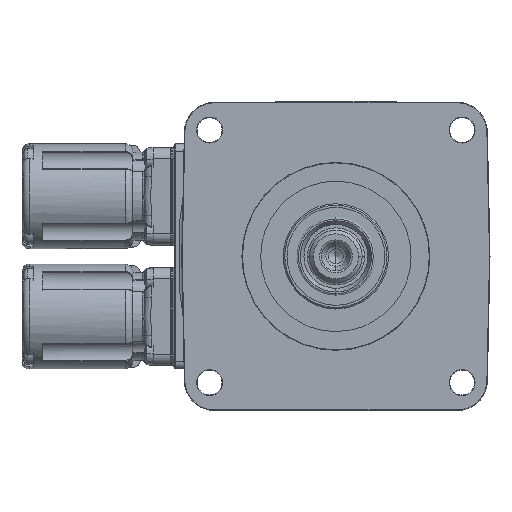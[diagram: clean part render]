
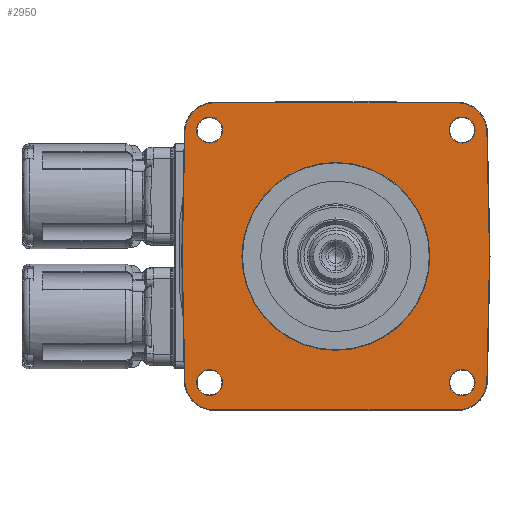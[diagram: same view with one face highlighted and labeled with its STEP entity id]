
A CAD part, left-side view. The second image highlights one B-rep face of the part: STEP entity #2950.
In plain terms, the highlighted planar face has unit normal (-1, 0, 0) as drawn and (0, 0, 1) by its records, which use the part's own axes.
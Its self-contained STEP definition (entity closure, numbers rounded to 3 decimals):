
#282=CARTESIAN_POINT('',(0.,0.,8.));
#283=DIRECTION('',(0.,0.,-1.));
#284=DIRECTION('',(0.,1.,0.));
#285=AXIS2_PLACEMENT_3D('',#282,#283,#284);
#287=CARTESIAN_POINT('',(0.,0.,8.));
#288=DIRECTION('',(0.,0.,1.));
#289=DIRECTION('',(0.,1.,0.));
#290=AXIS2_PLACEMENT_3D('',#287,#288,#289);
#292=DIRECTION('',(1.,0.021,0.));
#293=VECTOR('',#292,33.172);
#294=CARTESIAN_POINT('',(0.,-40.866,8.));
#295=LINE('',#294,#293);
#296=DIRECTION('',(1.,-0.021,0.));
#297=VECTOR('',#296,33.172);
#298=CARTESIAN_POINT('',(-33.165,-40.171,8.));
#299=LINE('',#298,#297);
#300=CARTESIAN_POINT('',(-33.,-32.307,8.));
#301=DIRECTION('',(0.,0.,-1.));
#302=DIRECTION('',(-0.021,-1.,0.));
#303=AXIS2_PLACEMENT_3D('',#300,#301,#302);
#305=DIRECTION('',(0.,-1.,0.));
#306=VECTOR('',#305,64.614);
#307=CARTESIAN_POINT('',(-40.866,32.307,8.));
#308=LINE('',#307,#306);
#309=CARTESIAN_POINT('',(-33.,32.307,8.));
#310=DIRECTION('',(0.,0.,-1.));
#311=DIRECTION('',(-1.,0.,0.));
#312=AXIS2_PLACEMENT_3D('',#309,#310,#311);
#314=DIRECTION('',(-1.,-0.021,0.));
#315=VECTOR('',#314,33.172);
#316=CARTESIAN_POINT('',(0.,40.866,8.));
#317=LINE('',#316,#315);
#318=DIRECTION('',(-1.,0.021,0.));
#319=VECTOR('',#318,33.172);
#320=CARTESIAN_POINT('',(33.165,40.171,8.));
#321=LINE('',#320,#319);
#322=CARTESIAN_POINT('',(33.,32.307,8.));
#323=DIRECTION('',(0.,0.,-1.));
#324=DIRECTION('',(0.021,1.,0.));
#325=AXIS2_PLACEMENT_3D('',#322,#323,#324);
#327=DIRECTION('',(0.,1.,0.));
#328=VECTOR('',#327,64.614);
#329=CARTESIAN_POINT('',(40.866,-32.307,8.));
#330=LINE('',#329,#328);
#331=CARTESIAN_POINT('',(33.,-32.307,8.));
#332=DIRECTION('',(0.,0.,-1.));
#333=DIRECTION('',(1.,0.,0.));
#334=AXIS2_PLACEMENT_3D('',#331,#332,#333);
#336=CARTESIAN_POINT('',(33.588,33.588,8.));
#337=DIRECTION('',(0.,0.,-1.));
#338=DIRECTION('',(1.,0.,0.));
#339=AXIS2_PLACEMENT_3D('',#336,#337,#338);
#341=CARTESIAN_POINT('',(33.588,33.588,8.));
#342=DIRECTION('',(0.,0.,-1.));
#343=DIRECTION('',(-1.,0.,0.));
#344=AXIS2_PLACEMENT_3D('',#341,#342,#343);
#346=CARTESIAN_POINT('',(-33.588,33.588,8.));
#347=DIRECTION('',(0.,0.,-1.));
#348=DIRECTION('',(1.,0.,0.));
#349=AXIS2_PLACEMENT_3D('',#346,#347,#348);
#351=CARTESIAN_POINT('',(-33.588,33.588,8.));
#352=DIRECTION('',(0.,0.,-1.));
#353=DIRECTION('',(-1.,0.,0.));
#354=AXIS2_PLACEMENT_3D('',#351,#352,#353);
#356=CARTESIAN_POINT('',(-33.588,-33.588,8.));
#357=DIRECTION('',(0.,0.,-1.));
#358=DIRECTION('',(1.,0.,0.));
#359=AXIS2_PLACEMENT_3D('',#356,#357,#358);
#361=CARTESIAN_POINT('',(-33.588,-33.588,8.));
#362=DIRECTION('',(0.,0.,-1.));
#363=DIRECTION('',(-1.,0.,0.));
#364=AXIS2_PLACEMENT_3D('',#361,#362,#363);
#366=CARTESIAN_POINT('',(33.588,-33.588,8.));
#367=DIRECTION('',(0.,0.,-1.));
#368=DIRECTION('',(1.,0.,0.));
#369=AXIS2_PLACEMENT_3D('',#366,#367,#368);
#371=CARTESIAN_POINT('',(33.588,-33.588,8.));
#372=DIRECTION('',(0.,0.,-1.));
#373=DIRECTION('',(-1.,0.,0.));
#374=AXIS2_PLACEMENT_3D('',#371,#372,#373);
#2300=CARTESIAN_POINT('',(0.,25.,8.));
#2301=CARTESIAN_POINT('',(0.,-25.,8.));
#2302=VERTEX_POINT('',#2300);
#2303=VERTEX_POINT('',#2301);
#2376=CARTESIAN_POINT('',(0.,-40.866,8.));
#2377=CARTESIAN_POINT('',(33.165,-40.171,8.));
#2378=VERTEX_POINT('',#2376);
#2379=VERTEX_POINT('',#2377);
#2380=CARTESIAN_POINT('',(40.866,-32.307,8.));
#2381=VERTEX_POINT('',#2380);
#2382=CARTESIAN_POINT('',(40.866,32.307,8.));
#2383=VERTEX_POINT('',#2382);
#2384=CARTESIAN_POINT('',(33.165,40.171,8.));
#2385=VERTEX_POINT('',#2384);
#2386=CARTESIAN_POINT('',(0.,40.866,8.));
#2387=VERTEX_POINT('',#2386);
#2388=CARTESIAN_POINT('',(-33.165,40.171,8.));
#2389=VERTEX_POINT('',#2388);
#2390=CARTESIAN_POINT('',(-40.866,32.307,8.));
#2391=VERTEX_POINT('',#2390);
#2392=CARTESIAN_POINT('',(-40.866,-32.307,8.));
#2393=VERTEX_POINT('',#2392);
#2394=CARTESIAN_POINT('',(-33.165,-40.171,8.));
#2395=VERTEX_POINT('',#2394);
#2396=CARTESIAN_POINT('',(37.022,33.588,8.));
#2397=CARTESIAN_POINT('',(30.154,33.588,8.));
#2398=VERTEX_POINT('',#2396);
#2399=VERTEX_POINT('',#2397);
#2400=CARTESIAN_POINT('',(-30.154,33.588,8.));
#2401=CARTESIAN_POINT('',(-37.022,33.588,8.));
#2402=VERTEX_POINT('',#2400);
#2403=VERTEX_POINT('',#2401);
#2404=CARTESIAN_POINT('',(-30.154,-33.588,8.));
#2405=CARTESIAN_POINT('',(-37.022,-33.588,8.));
#2406=VERTEX_POINT('',#2404);
#2407=VERTEX_POINT('',#2405);
#2408=CARTESIAN_POINT('',(37.022,-33.588,8.));
#2409=CARTESIAN_POINT('',(30.154,-33.588,8.));
#2410=VERTEX_POINT('',#2408);
#2411=VERTEX_POINT('',#2409);
#2894=CARTESIAN_POINT('',(0.,0.,8.));
#2895=DIRECTION('',(0.,0.,1.));
#2896=DIRECTION('',(0.,1.,0.));
#2897=AXIS2_PLACEMENT_3D('',#2894,#2895,#2896);
#2898=PLANE('',#2897);
#2900=ORIENTED_EDGE('',*,*,#2899,.F.);
#2902=ORIENTED_EDGE('',*,*,#2901,.F.);
#2904=ORIENTED_EDGE('',*,*,#2903,.T.);
#2906=ORIENTED_EDGE('',*,*,#2905,.F.);
#2907=ORIENTED_EDGE('',*,*,#2884,.T.);
#2909=ORIENTED_EDGE('',*,*,#2908,.F.);
#2911=ORIENTED_EDGE('',*,*,#2910,.F.);
#2913=ORIENTED_EDGE('',*,*,#2912,.T.);
#2915=ORIENTED_EDGE('',*,*,#2914,.F.);
#2917=ORIENTED_EDGE('',*,*,#2916,.T.);
#2918=EDGE_LOOP('',(#2900,#2902,#2904,#2906,#2907,#2909,#2911,#2913,#2915,
#2917));
#2919=FACE_OUTER_BOUND('',#2918,.F.);
#2921=ORIENTED_EDGE('',*,*,#2920,.F.);
#2923=ORIENTED_EDGE('',*,*,#2922,.T.);
#2924=EDGE_LOOP('',(#2921,#2923));
#2925=FACE_BOUND('',#2924,.F.);
#2927=ORIENTED_EDGE('',*,*,#2926,.F.);
#2929=ORIENTED_EDGE('',*,*,#2928,.F.);
#2930=EDGE_LOOP('',(#2927,#2929));
#2931=FACE_BOUND('',#2930,.F.);
#2933=ORIENTED_EDGE('',*,*,#2932,.F.);
#2935=ORIENTED_EDGE('',*,*,#2934,.F.);
#2936=EDGE_LOOP('',(#2933,#2935));
#2937=FACE_BOUND('',#2936,.F.);
#2939=ORIENTED_EDGE('',*,*,#2938,.F.);
#2941=ORIENTED_EDGE('',*,*,#2940,.F.);
#2942=EDGE_LOOP('',(#2939,#2941));
#2943=FACE_BOUND('',#2942,.F.);
#2945=ORIENTED_EDGE('',*,*,#2944,.F.);
#2947=ORIENTED_EDGE('',*,*,#2946,.F.);
#2948=EDGE_LOOP('',(#2945,#2947));
#2949=FACE_BOUND('',#2948,.F.);
#2950=ADVANCED_FACE('',(#2919,#2925,#2931,#2937,#2943,#2949),#2898,.T.);
#286=CIRCLE('',#285,25.);
#291=CIRCLE('',#290,25.);
#304=CIRCLE('',#303,7.866);
#313=CIRCLE('',#312,7.866);
#326=CIRCLE('',#325,7.866);
#335=CIRCLE('',#334,7.866);
#340=CIRCLE('',#339,3.434);
#345=CIRCLE('',#344,3.434);
#350=CIRCLE('',#349,3.434);
#355=CIRCLE('',#354,3.434);
#360=CIRCLE('',#359,3.434);
#365=CIRCLE('',#364,3.434);
#370=CIRCLE('',#369,3.434);
#375=CIRCLE('',#374,3.434);
#2884=EDGE_CURVE('',#2391,#2389,#313,.T.);
#2899=EDGE_CURVE('',#2378,#2379,#295,.T.);
#2901=EDGE_CURVE('',#2395,#2378,#299,.T.);
#2903=EDGE_CURVE('',#2395,#2393,#304,.T.);
#2905=EDGE_CURVE('',#2391,#2393,#308,.T.);
#2908=EDGE_CURVE('',#2387,#2389,#317,.T.);
#2910=EDGE_CURVE('',#2385,#2387,#321,.T.);
#2912=EDGE_CURVE('',#2385,#2383,#326,.T.);
#2914=EDGE_CURVE('',#2381,#2383,#330,.T.);
#2916=EDGE_CURVE('',#2381,#2379,#335,.T.);
#2920=EDGE_CURVE('',#2302,#2303,#286,.T.);
#2922=EDGE_CURVE('',#2302,#2303,#291,.T.);
#2926=EDGE_CURVE('',#2398,#2399,#340,.T.);
#2928=EDGE_CURVE('',#2399,#2398,#345,.T.);
#2932=EDGE_CURVE('',#2402,#2403,#350,.T.);
#2934=EDGE_CURVE('',#2403,#2402,#355,.T.);
#2938=EDGE_CURVE('',#2406,#2407,#360,.T.);
#2940=EDGE_CURVE('',#2407,#2406,#365,.T.);
#2944=EDGE_CURVE('',#2410,#2411,#370,.T.);
#2946=EDGE_CURVE('',#2411,#2410,#375,.T.);
